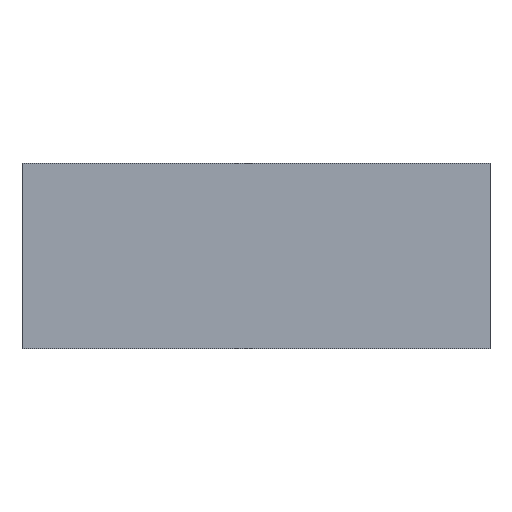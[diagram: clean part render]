
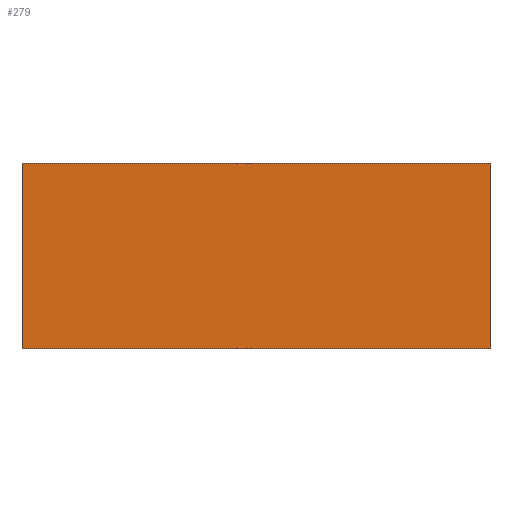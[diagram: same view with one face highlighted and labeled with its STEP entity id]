
A CAD part, front view. The second image highlights one B-rep face of the part: STEP entity #279.
In plain terms, the highlighted planar face has unit normal (0, -1, 0).
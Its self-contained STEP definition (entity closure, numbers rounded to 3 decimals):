
#28 = VERTEX_POINT ( 'NONE', #56 ) ;
#30 = VERTEX_POINT ( 'NONE', #58 ) ;
#36 = VERTEX_POINT ( 'NONE', #64 ) ;
#37 = VERTEX_POINT ( 'NONE', #65 ) ;
#56 = CARTESIAN_POINT ( 'NONE',  ( 151., 0., 0. ) ) ;
#58 = CARTESIAN_POINT ( 'NONE',  ( -151., 0., 120. ) ) ;
#64 = CARTESIAN_POINT ( 'NONE',  ( 151., 0., 120. ) ) ;
#65 = CARTESIAN_POINT ( 'NONE',  ( -151., 0., 0. ) ) ;
#123 = PLANE ( 'NONE',  #340 ) ;
#127 = CARTESIAN_POINT ( 'NONE',  ( -151., 0., 120. ) ) ;
#133 = DIRECTION ( 'NONE',  ( 0., 1., 0. ) ) ;
#134 = DIRECTION ( 'NONE',  ( -1., 0., 0. ) ) ;
#147 = CARTESIAN_POINT ( 'NONE',  ( -151., 0., 0. ) ) ;
#148 = DIRECTION ( 'NONE',  ( 1., 0., 0. ) ) ;
#183 = CARTESIAN_POINT ( 'NONE',  ( 151., 0., 120. ) ) ;
#184 = DIRECTION ( 'NONE',  ( 0., 0., -1. ) ) ;
#203 = CARTESIAN_POINT ( 'NONE',  ( -151., 0., 120. ) ) ;
#204 = DIRECTION ( 'NONE',  ( 1., 0., 0. ) ) ;
#205 = CARTESIAN_POINT ( 'NONE',  ( -151., 0., 120. ) ) ;
#206 = DIRECTION ( 'NONE',  ( 0., 0., -1. ) ) ;
#279 = ADVANCED_FACE ( 'NONE', ( #528 ), #123, .F. ) ;
#284 = EDGE_CURVE ( 'NONE', #37, #28, #395, .T. ) ;
#310 = EDGE_CURVE ( 'NONE', #36, #28, #556, .T. ) ;
#328 = EDGE_CURVE ( 'NONE', #30, #36, #574, .T. ) ;
#331 = EDGE_CURVE ( 'NONE', #30, #37, #576, .T. ) ;
#340 = AXIS2_PLACEMENT_3D ( 'NONE', #127, #133, #134 ) ;
#371 = VECTOR ( 'NONE', #148, 1000. ) ;
#392 = ORIENTED_EDGE ( 'NONE', *, *, #284, .T. ) ;
#395 = LINE ( 'NONE', #147, #371 ) ;
#428 = ORIENTED_EDGE ( 'NONE', *, *, #328, .F. ) ;
#431 = ORIENTED_EDGE ( 'NONE', *, *, #331, .T. ) ;
#493 = EDGE_LOOP ( 'NONE', ( #392, #607, #428, #431 ) ) ;
#528 = FACE_OUTER_BOUND ( 'NONE', #493, .T. ) ;
#556 = LINE ( 'NONE', #183, #557 ) ;
#557 = VECTOR ( 'NONE', #184, 1000. ) ;
#574 = LINE ( 'NONE', #203, #575 ) ;
#575 = VECTOR ( 'NONE', #204, 1000. ) ;
#576 = LINE ( 'NONE', #205, #577 ) ;
#577 = VECTOR ( 'NONE', #206, 1000. ) ;
#607 = ORIENTED_EDGE ( 'NONE', *, *, #310, .F. ) ;
